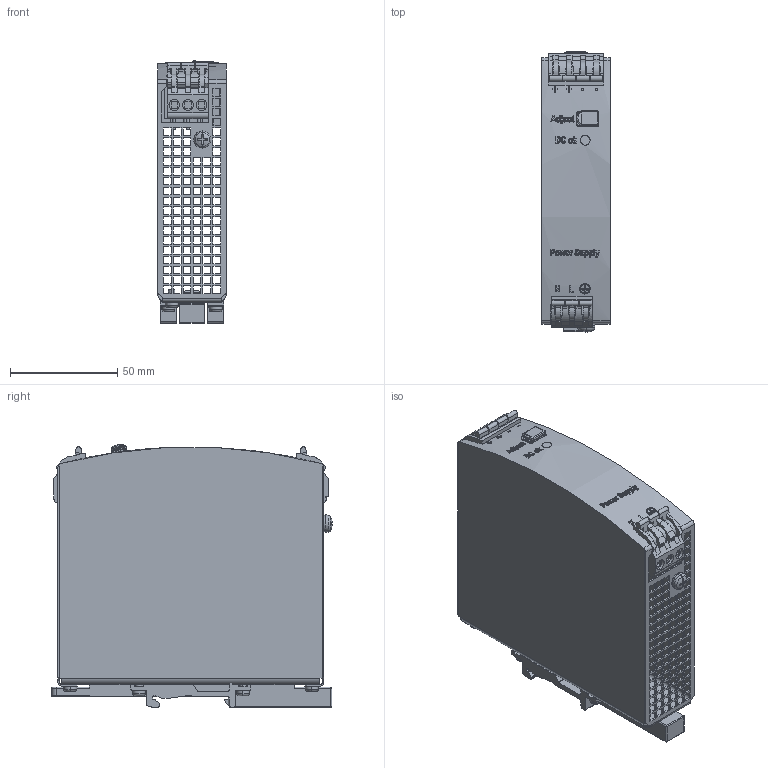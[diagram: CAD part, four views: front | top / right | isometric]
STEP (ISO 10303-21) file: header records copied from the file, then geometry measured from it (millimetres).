
FILE_DESCRIPTION((''),'2;1');
FILE_NAME('CD_PS-15','2009-11-25T',('aluksys'),(''),'PRO/ENGINEER BY PARAMETRIC TECHNOLOGY CORPORATION, 2006080','PRO/ENGINEER BY PARAMETRIC TECHNOLOGY CORPORATION, 2006080','');
FILE_SCHEMA(('CONFIG_CONTROL_DESIGN'));
Products named in the file (1): CD_PS-15
Bounding box: 32 x 130.77 x 122.37 mm (x, y, z)
Volume: 77141.8 mm3; surface area: 92929.6 mm2
Topology: 1 solids, 1 shells, 2124 faces, 6094 edges, 4036 vertices
Faces by surface type: plane 1544, cylinder 333, bspline 107, extrusion 69, torus 36, cone 21, sphere 14
Entity records: 103264 total; most frequent: CARTESIAN_POINT 47681, ORIENTED_EDGE 12168, DIRECTION 10180, EDGE_CURVE 6084, VECTOR 4612, LINE 4543, VERTEX_POINT 4036, AXIS2_PLACEMENT_3D 2784
